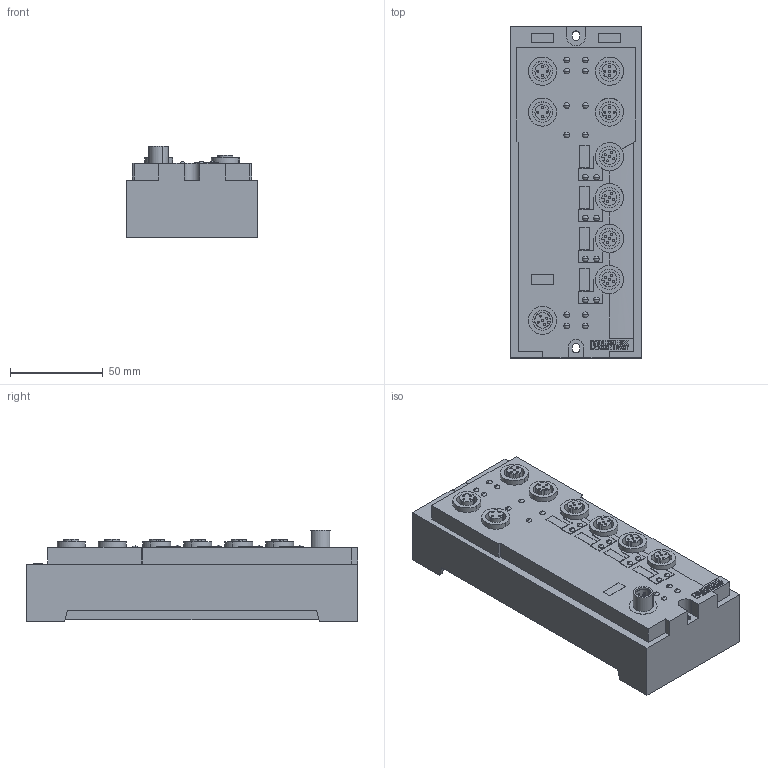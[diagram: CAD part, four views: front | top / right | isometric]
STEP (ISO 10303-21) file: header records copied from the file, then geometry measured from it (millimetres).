
FILE_DESCRIPTION(('OneSpaceDesigner STEP Export'),'2;1');
FILE_NAME('00427718.stp','2008-10-16T 9:15:09',(''),(''),'OneSpace Designer STEP processor for AP214 (Solid Model)','OneSpace Designer 14.50 18-Oct-2006 (C) CoCreate Software GmbH','');
FILE_SCHEMA(('AUTOMOTIVE_DESIGN { 1 0 10303 214 1 1 1 1 }'));
Length unit declared in the file: millimetre
Products named in the file (2): FLM_BK_ETH_M12
Assembly tree (1 placements, depth 2):
  FLM_BK_ETH_M12
    FLM_BK_ETH_M12
Bounding box: 70.5 x 178.5 x 49.25 mm (x, y, z)
Volume: 464725.8 mm3; surface area: 52351.4 mm2
Topology: 1 solids, 1 shells, 988 faces, 2692 edges, 1780 vertices
Faces by surface type: cylinder 593, plane 355, sphere 40
Entity records: 38049 total; most frequent: CARTESIAN_POINT 5946, ORIENTED_EDGE 5304, DIRECTION 4942, EDGE_CURVE 2652, AXIS2_PLACEMENT_3D 1795, VERTEX_POINT 1780, VECTOR 1352, LINE 1352
